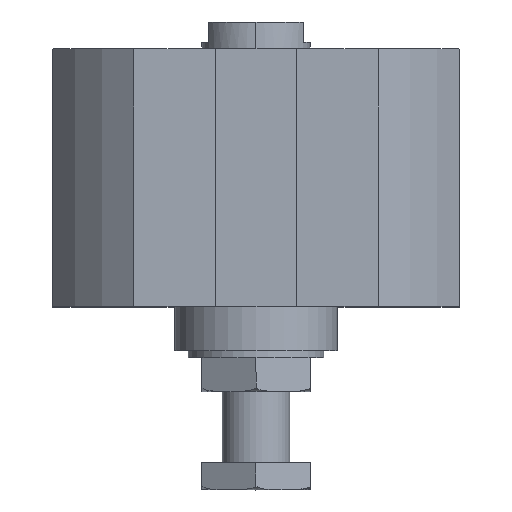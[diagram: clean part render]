
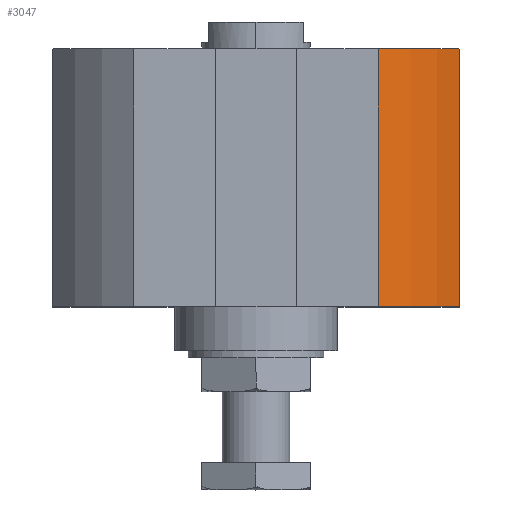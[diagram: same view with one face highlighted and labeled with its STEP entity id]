
A CAD part, top view. The second image highlights one B-rep face of the part: STEP entity #3047.
In plain terms, the highlighted cylindrical face has radius 35 mm (diameter 70 mm), a partial arc.
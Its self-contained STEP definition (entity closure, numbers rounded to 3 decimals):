
#432 = EDGE_CURVE ( 'NONE', #2418, #4681, #3707, .T. ) ;
#814 = CARTESIAN_POINT ( 'NONE',  ( 30., -38., 18.028 ) ) ;
#934 = ORIENTED_EDGE ( 'NONE', *, *, #4483, .T. ) ;
#1080 = DIRECTION ( 'NONE',  ( 0., 0., 1. ) ) ;
#1218 = CARTESIAN_POINT ( 'NONE',  ( 30., -38., 18.028 ) ) ;
#1285 = AXIS2_PLACEMENT_3D ( 'NONE', #3336, #2241, #1080 ) ;
#1457 = CARTESIAN_POINT ( 'NONE',  ( 18.028, -38., 30. ) ) ;
#1483 = DIRECTION ( 'NONE',  ( 0., 1., 0. ) ) ;
#1797 = ORIENTED_EDGE ( 'NONE', *, *, #2675, .F. ) ;
#1835 = DIRECTION ( 'NONE',  ( 0., 0., 1. ) ) ;
#1883 = CARTESIAN_POINT ( 'NONE',  ( 30., 0., 18.028 ) ) ;
#2151 = CARTESIAN_POINT ( 'NONE',  ( 0., -38., 0. ) ) ;
#2164 = CIRCLE ( 'NONE', #1285, 35. ) ;
#2225 = AXIS2_PLACEMENT_3D ( 'NONE', #4298, #3520, #2798 ) ;
#2241 = DIRECTION ( 'NONE',  ( 0., 1., 0. ) ) ;
#2270 = EDGE_CURVE ( 'NONE', #2697, #4305, #2446, .T. ) ;
#2275 = FACE_OUTER_BOUND ( 'NONE', #4294, .T. ) ;
#2382 = CIRCLE ( 'NONE', #4064, 35. ) ;
#2416 = CARTESIAN_POINT ( 'NONE',  ( 18.028, 0., 30. ) ) ;
#2418 = VERTEX_POINT ( 'NONE', #814 ) ;
#2446 = LINE ( 'NONE', #4035, #4473 ) ;
#2675 = EDGE_CURVE ( 'NONE', #4305, #4681, #2164, .T. ) ;
#2691 = CYLINDRICAL_SURFACE ( 'NONE', #2225, 35. ) ;
#2697 = VERTEX_POINT ( 'NONE', #1457 ) ;
#2712 = VECTOR ( 'NONE', #2718, 1000. ) ;
#2718 = DIRECTION ( 'NONE',  ( 0., 1., 0. ) ) ;
#2798 = DIRECTION ( 'NONE',  ( 0., 0., 1. ) ) ;
#3047 = ADVANCED_FACE ( 'NONE', ( #2275 ), #2691, .T. ) ;
#3336 = CARTESIAN_POINT ( 'NONE',  ( 0., 0., 0. ) ) ;
#3520 = DIRECTION ( 'NONE',  ( 0., 1., 0. ) ) ;
#3665 = ORIENTED_EDGE ( 'NONE', *, *, #432, .T. ) ;
#3707 = LINE ( 'NONE', #1218, #2712 ) ;
#3759 = ORIENTED_EDGE ( 'NONE', *, *, #2270, .F. ) ;
#4035 = CARTESIAN_POINT ( 'NONE',  ( 18.028, -38., 30. ) ) ;
#4064 = AXIS2_PLACEMENT_3D ( 'NONE', #2151, #4425, #1835 ) ;
#4294 = EDGE_LOOP ( 'NONE', ( #1797, #3759, #934, #3665 ) ) ;
#4298 = CARTESIAN_POINT ( 'NONE',  ( 0., -38., 0. ) ) ;
#4305 = VERTEX_POINT ( 'NONE', #2416 ) ;
#4425 = DIRECTION ( 'NONE',  ( 0., 1., 0. ) ) ;
#4473 = VECTOR ( 'NONE', #1483, 1000. ) ;
#4483 = EDGE_CURVE ( 'NONE', #2697, #2418, #2382, .T. ) ;
#4681 = VERTEX_POINT ( 'NONE', #1883 ) ;
